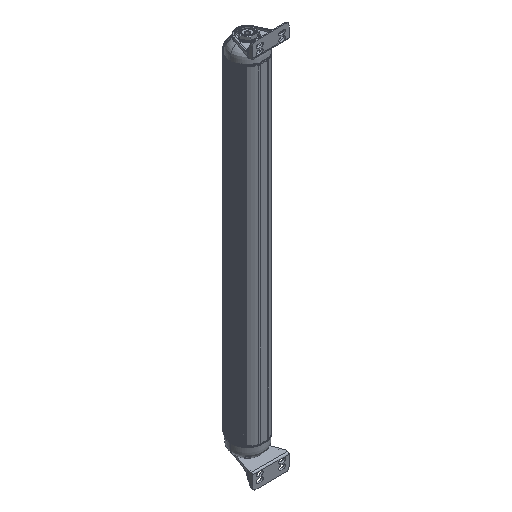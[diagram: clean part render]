
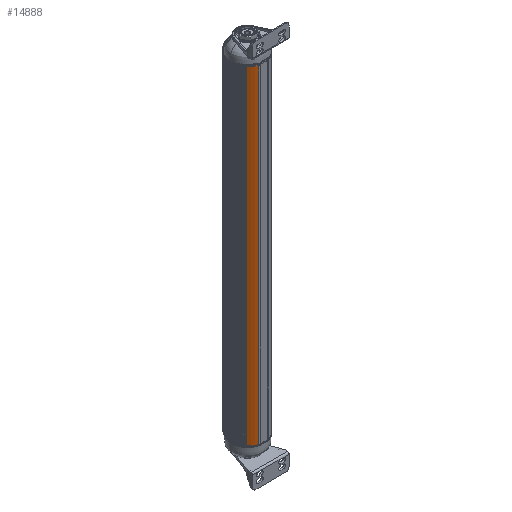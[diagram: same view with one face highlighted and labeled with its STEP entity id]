
A CAD part, isometric view. The second image highlights one B-rep face of the part: STEP entity #14888.
In plain terms, the highlighted cylindrical face has radius 30 mm (diameter 60 mm), a partial arc.
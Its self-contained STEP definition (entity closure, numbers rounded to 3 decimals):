
#1081 = CARTESIAN_POINT ( 'NONE',  ( -8.939, -28.637, 98.333 ) ) ;
#3698 = AXIS2_PLACEMENT_3D ( 'NONE', #19410, #37152, #54627 ) ;
#4055 = DIRECTION ( 'NONE',  ( 0., 0., 1. ) ) ;
#4333 = DIRECTION ( 'NONE',  ( 1., 0., 0. ) ) ;
#5303 = AXIS2_PLACEMENT_3D ( 'NONE', #55976, #39323, #43644 ) ;
#6510 = CARTESIAN_POINT ( 'NONE',  ( -8.935, -28.638, -98.333 ) ) ;
#7416 = EDGE_CURVE ( 'NONE', #32874, #45021, #28386, .T. ) ;
#9259 = CARTESIAN_POINT ( 'NONE',  ( -21.932, -20.469, -295. ) ) ;
#9673 = CARTESIAN_POINT ( 'NONE',  ( -8.942, -28.636, 295. ) ) ;
#10438 = CARTESIAN_POINT ( 'NONE',  ( -21.932, -20.469, 295. ) ) ;
#12638 = CYLINDRICAL_SURFACE ( 'NONE', #47802, 30. ) ;
#13656 = EDGE_CURVE ( 'NONE', #45021, #32727, #35608, .T. ) ;
#14888 = ADVANCED_FACE ( 'NONE', ( #16954 ), #12638, .T. ) ;
#16447 = CARTESIAN_POINT ( 'NONE',  ( -8.932, -28.639, -295. ) ) ;
#16954 = FACE_OUTER_BOUND ( 'NONE', #33363, .T. ) ;
#19410 = CARTESIAN_POINT ( 'NONE',  ( 0., 0., 295. ) ) ;
#21299 = VERTEX_POINT ( 'NONE', #9259 ) ;
#27231 = CIRCLE ( 'NONE', #5303, 30. ) ;
#28039 = VECTOR ( 'NONE', #49005, 1000. ) ;
#28386 = CIRCLE ( 'NONE', #3698, 30. ) ;
#32727 = VERTEX_POINT ( 'NONE', #16447 ) ;
#32874 = VERTEX_POINT ( 'NONE', #10438 ) ;
#33074 = EDGE_CURVE ( 'NONE', #21299, #32727, #27231, .T. ) ;
#33363 = EDGE_LOOP ( 'NONE', ( #35238, #50615, #45869, #56165 ) ) ;
#35238 = ORIENTED_EDGE ( 'NONE', *, *, #33074, .T. ) ;
#35608 = B_SPLINE_CURVE_WITH_KNOTS ( 'NONE', 3,
 ( #54634, #1081, #6510, #44629 ),
 .UNSPECIFIED., .F., .F.,
 ( 4, 4 ),
 ( 0., 1. ),
 .UNSPECIFIED. ) ;
#35842 = CARTESIAN_POINT ( 'NONE',  ( -21.932, -20.469, -295. ) ) ;
#37152 = DIRECTION ( 'NONE',  ( 0., 0., 1. ) ) ;
#39323 = DIRECTION ( 'NONE',  ( 0., 0., 1. ) ) ;
#42267 = EDGE_CURVE ( 'NONE', #32874, #21299, #52749, .T. ) ;
#43596 = CARTESIAN_POINT ( 'NONE',  ( 0., 0., -295. ) ) ;
#43644 = DIRECTION ( 'NONE',  ( 1., 0., 0. ) ) ;
#44629 = CARTESIAN_POINT ( 'NONE',  ( -8.932, -28.639, -295. ) ) ;
#45021 = VERTEX_POINT ( 'NONE', #9673 ) ;
#45869 = ORIENTED_EDGE ( 'NONE', *, *, #7416, .F. ) ;
#47802 = AXIS2_PLACEMENT_3D ( 'NONE', #43596, #4055, #4333 ) ;
#49005 = DIRECTION ( 'NONE',  ( 0., 0., -1. ) ) ;
#50615 = ORIENTED_EDGE ( 'NONE', *, *, #13656, .F. ) ;
#52749 = LINE ( 'NONE', #35842, #28039 ) ;
#54627 = DIRECTION ( 'NONE',  ( 1., 0., 0. ) ) ;
#54634 = CARTESIAN_POINT ( 'NONE',  ( -8.942, -28.636, 295. ) ) ;
#55976 = CARTESIAN_POINT ( 'NONE',  ( 0., 0., -295. ) ) ;
#56165 = ORIENTED_EDGE ( 'NONE', *, *, #42267, .T. ) ;
